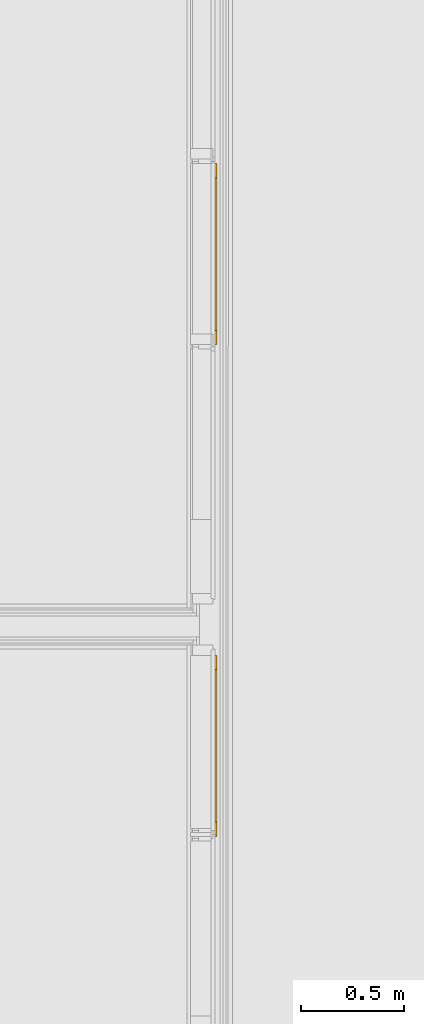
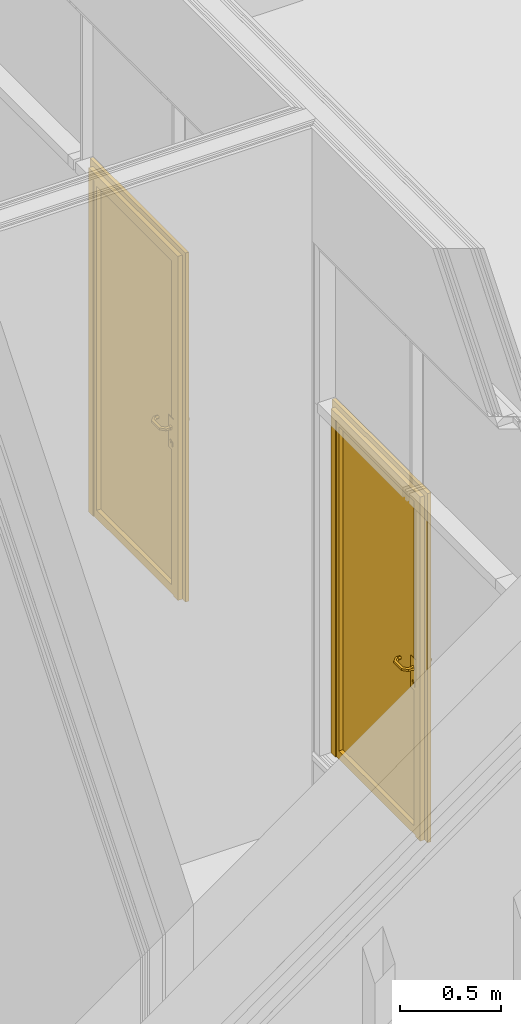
# One storey, part 242 of 260: 2 doors, 2 elements without a shape of their own.
"""IFC2X3 building model written with IfcOpenShell, lengths in millimetres."""

import ifcopenshell
import ifcopenshell.guid

model = None  # the IFC model being written
_history = None  # IfcOwnerHistory: only IFC2X3 demands one
_inside = {}  # id of a spatial element -> (the spatial element, [elements in it])
_under = {}  # id of a project, library or spatial element -> (it, [spatial elements below it])
_declared = {}  # id of a project -> (the project, [libraries it declares])
_typed = {}  # id of a type object -> (the type object, [elements of that type])
_made_of = {}  # id of a material, layer set ... -> (it, [elements and type objects made of it])


def new_model(schema):
    """Start an empty IFC model of exactly this schema.

    Asked for "IFC4X3", IfcOpenShell would pick the latest addendum, in which some entities
    have other attributes; the version numbers below select the first issue.
    IFC2X3 requires an IfcOwnerHistory on every rooted entity: one is made here for all.
    """
    global model, _history
    if schema == "IFC4X3":
        model = ifcopenshell.file(schema_version=(4, 3, 0, 0))
    else:
        model = ifcopenshell.file(schema=schema)
    _inside.clear()
    _under.clear()
    _declared.clear()
    _typed.clear()
    _made_of.clear()
    _history = None
    if model.schema == "IFC2X3":
        org = make("IfcOrganization", Name="unknown")
        user = make(
            "IfcPersonAndOrganization",
            ThePerson=make("IfcPerson", FamilyName="unknown"),
            TheOrganization=org,
        )
        app = make(
            "IfcApplication",
            ApplicationDeveloper=org,
            Version="unknown",
            ApplicationFullName="unknown",
            ApplicationIdentifier="unknown",
        )
        _history = make(
            "IfcOwnerHistory",
            OwningUser=user,
            OwningApplication=app,
            ChangeAction="ADDED",
            CreationDate=0,
        )
    return model


def make(cls, **values):
    """One entity of the class cls with the attributes given. An attribute that is None is left unset."""
    return model.create_entity(
        cls, **{name: value for name, value in values.items() if value is not None}
    )


def entity(cls, *values):
    """Any entity or typed value of the class cls, its attributes in the order of the schema. None: left unset."""
    e = model.create_entity(cls)
    for i, value in enumerate(values):
        if value is not None:
            e[i] = value
    return e


def rooted(cls, **values):
    """An entity with a GlobalId (a new one), such as an element, a storey or a relation."""
    return make(cls, GlobalId=ifcopenshell.guid.new(), OwnerHistory=_history, **values)


def si_unit(unit_type, name, prefix=None):
    """IfcSIUnit, for example si_unit("LENGTHUNIT", "METRE", prefix="MILLI")."""
    return make("IfcSIUnit", UnitType=unit_type, Prefix=prefix, Name=name)


def converted_unit(unit_type, name, factor, base, dimensions=None, offset=None):
    """IfcConversionBasedUnit, such as the inch: factor (a typed value) times the base unit."""
    return make(
        "IfcConversionBasedUnit"
        if offset is None
        else "IfcConversionBasedUnitWithOffset",
        ConversionOffset=offset,
        Dimensions=None
        if dimensions is None
        else entity("IfcDimensionalExponents", *dimensions),
        UnitType=unit_type,
        Name=name,
        ConversionFactor=make(
            "IfcMeasureWithUnit", ValueComponent=factor, UnitComponent=base
        ),
    )


def derived_unit(unit_type, elements):
    """IfcDerivedUnit: a product of units, each with its exponent."""
    return make(
        "IfcDerivedUnit",
        Elements=[
            make("IfcDerivedUnitElement", Unit=unit, Exponent=power)
            for unit, power in elements
        ],
        UnitType=unit_type,
    )


def money_unit(currency):
    """IfcMonetaryUnit."""
    return make("IfcMonetaryUnit", Currency=currency)


def assignment(units):
    """IfcUnitAssignment: the units of a project."""
    return None if units is None else make("IfcUnitAssignment", Units=units)


def point(xyz):
    """IfcCartesianPoint."""
    return None if xyz is None else make("IfcCartesianPoint", Coordinates=xyz)


def direction(xyz):
    """IfcDirection."""
    return None if xyz is None else make("IfcDirection", DirectionRatios=xyz)


def frame(location, z_axis=None, x_axis=None):
    """IfcAxis2Placement3D, a coordinate frame: its origin and axes. An axis left out is left unset."""
    return make(
        "IfcAxis2Placement3D",
        Location=point(location),
        Axis=direction(z_axis),
        RefDirection=direction(x_axis),
    )


def origin_with_axes():
    """The frame at (0, 0, 0) with the z axis (0, 0, 1) and the x axis (1, 0, 0) written out."""
    return frame((0.0, 0.0, 0.0), z_axis=(0.0, 0.0, 1.0), x_axis=(1.0, 0.0, 0.0))


def place(relative_to, where):
    """IfcLocalPlacement: puts the frame where relative to a parent placement (None: the world)."""
    return make(
        "IfcLocalPlacement", PlacementRelTo=relative_to, RelativePlacement=where
    )


def context(
    kind, dimensions, precision=None, world=None, true_north=None, identifier=None
):
    """IfcGeometricRepresentationContext, for example the 3D "Model" context."""
    return make(
        "IfcGeometricRepresentationContext",
        ContextIdentifier=identifier,
        ContextType=kind,
        CoordinateSpaceDimension=dimensions,
        Precision=precision,
        WorldCoordinateSystem=world,
        TrueNorth=true_north,
    )


def subcontext(parent, identifier, kind, view, scale=None):
    """IfcGeometricRepresentationSubContext, for example "Body" below "Model"."""
    return make(
        "IfcGeometricRepresentationSubContext",
        ContextIdentifier=identifier,
        ContextType=kind,
        ParentContext=parent,
        TargetScale=scale,
        TargetView=view,
    )


def project(units=None, contexts=None):
    """IfcProject with its units and contexts."""
    return rooted(
        "IfcProject",
        Name="project",
        RepresentationContexts=contexts,
        UnitsInContext=assignment(units),
    )


def spatial(cls, under=None, at=None, **own):
    """A site, building, storey or space (cls), placed at a placement, below another one or the project."""
    s = rooted(cls, ObjectPlacement=at, **own)
    if under is not None:
        _under.setdefault(under.id(), (under, []))[1].append(s)
    return s


def faces_of(points, faces, orient=None, outer=None):
    """IfcFace entities. A face is a list of loops; a loop is a list of indices into points, from 0.

    orient and outer hold one flag for each loop. By default every Orientation is true, the
    first loop of a face is its IfcFaceOuterBound and the others are IfcFaceBound.
    """
    made = []
    for i, loops in enumerate(faces):
        bounds = []
        for j, loop in enumerate(loops):
            is_outer = j == 0 if outer is None else outer[i][j]
            bounds.append(
                make(
                    "IfcFaceOuterBound" if is_outer else "IfcFaceBound",
                    Bound=make("IfcPolyLoop", Polygon=[points[k] for k in loop]),
                    Orientation=True if orient is None else orient[i][j],
                )
            )
        made.append(make("IfcFace", Bounds=bounds))
    return made


def open_shell(faces, orient=None, outer=None):
    """The faces of one IfcOpenShell. surface_model builds it on its shared points."""
    return ("IfcOpenShell", faces, orient, outer)


def faceted_brep(points, faces, orient=None, outer=None, voids=None):
    """IfcFacetedBrep: a solid bounded by flat faces; with voids (closed shells), ...WithVoids."""
    shared = [point(p) for p in points]
    hull = make("IfcClosedShell", CfsFaces=faces_of(shared, faces, orient, outer))
    if voids is None:
        return make("IfcFacetedBrep", Outer=hull)
    return make(
        "IfcFacetedBrepWithVoids",
        Outer=hull,
        Voids=[
            make(cls, CfsFaces=faces_of(shared, fs, o, b)) for cls, fs, o, b in voids
        ],
    )


def surface_model(cls, points, shells):
    """IfcFaceBasedSurfaceModel or IfcShellBasedSurfaceModel (cls): surfaces that need not close."""
    shared = [point(p) for p in points]
    made = [make(c, CfsFaces=faces_of(shared, fs, o, b)) for c, fs, o, b in shells]
    if cls == "IfcFaceBasedSurfaceModel":
        return make(cls, FbsmFaces=made)
    return make(cls, SbsmBoundary=made)


def shape(context_of_items, identifier, shape_type, items):
    """IfcShapeRepresentation: the items that make up one representation, for example the "Body"."""
    return make(
        "IfcShapeRepresentation",
        ContextOfItems=context_of_items,
        RepresentationIdentifier=identifier,
        RepresentationType=shape_type,
        Items=items,
    )


def material(Name=None, Category=None):
    """IfcMaterial."""
    return make("IfcMaterial", Name=Name, Category=Category)


def material_list(materials):
    """IfcMaterialList."""
    return make("IfcMaterialList", Materials=materials)


def made_of(thing, what):
    """Note that an element or type object is made of a material, layer set ...; save() writes the relation."""
    if what is not None:
        _made_of.setdefault(what.id(), (what, []))[1].append(thing)
    return thing


def type_object(cls, material=None, **own):
    """A type object (cls), such as IfcWallType, which elements share."""
    return made_of(rooted(cls, **own), material)


def element(
    cls,
    number,
    at=None,
    inside=None,
    cuts=None,
    type_object=None,
    material=None,
    context=None,
    identifier="Body",
    shape_type=None,
    held_by="IfcProductDefinitionShape",
    body=None,
    shapes=None,
    **own,
):
    """One element of the class cls, such as IfcWall. Its Tag is "e" and its number.

    at: its placement. inside: the storey or other place that contains it. cuts: it is an
    opening in that element (IfcRelVoidsElement). A single representation is given by context,
    identifier, shape_type and body (its items); several are given by shapes. held_by: the class
    of the entity that holds the representations. save() writes the other relations.
    """
    e = rooted(cls, Tag="e%d" % number, ObjectPlacement=at, **own)
    if body is not None:
        shapes = [shape(context, identifier, shape_type, body)]
    if shapes is not None:
        e.Representation = make(held_by, Representations=shapes)
    if inside is not None:
        _inside.setdefault(inside.id(), (inside, []))[1].append(e)
    if cuts is not None:
        rooted(
            "IfcRelVoidsElement", RelatingBuildingElement=cuts, RelatedOpeningElement=e
        )
    if type_object is not None:
        _typed.setdefault(type_object.id(), (type_object, []))[1].append(e)
    return made_of(e, material)


def aggregate(whole, parts):
    """IfcRelAggregates: a whole, such as a stair, and the parts it consists of."""
    return rooted("IfcRelAggregates", RelatingObject=whole, RelatedObjects=parts)


def save(model, path):
    """Write the relations noted so far, then the file.

    IfcRelAggregates (storeys below a building ...), IfcRelContainedInSpatialStructure (elements
    in a storey), IfcRelDefinesByType, IfcRelAssociatesMaterial and IfcRelDeclares: one each for
    every whole, place, type object, material and project.
    """
    for whole, parts in _under.values():
        aggregate(whole, parts)
    for where, things in _inside.values():
        rooted(
            "IfcRelContainedInSpatialStructure",
            RelatedElements=things,
            RelatingStructure=where,
        )
    for kind, things in _typed.values():
        rooted("IfcRelDefinesByType", RelatedObjects=things, RelatingType=kind)
    for what, things in _made_of.values():
        rooted("IfcRelAssociatesMaterial", RelatedObjects=things, RelatingMaterial=what)
    for by, libraries in _declared.values():
        rooted("IfcRelDeclares", RelatingContext=by, RelatedDefinitions=libraries)
    model.write(path)


model = new_model("IFC2X3")

# Units and contexts
model_context = context("Model", 3, precision=0.01, world=origin_with_axes(), true_north=direction((0.0, 1.0)))
body_context = subcontext(model_context, "Body", "Model", "MODEL_VIEW")
ifc_project = project(units=[si_unit("LENGTHUNIT", "METRE", prefix="MILLI"), si_unit("AREAUNIT", "SQUARE_METRE"), si_unit("VOLUMEUNIT", "CUBIC_METRE"), converted_unit("PLANEANGLEUNIT", "DEGREE", entity("IfcPlaneAngleMeasure", 0.0174532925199), si_unit("PLANEANGLEUNIT", "RADIAN"), dimensions=[0, 0, 0, 0, 0, 0, 0]), money_unit("EUR"), converted_unit("TIMEUNIT", "Year", entity("IfcTimeMeasure", 31556926.0), si_unit("TIMEUNIT", "SECOND"), dimensions=[0, 0, 1, 0, 0, 0, 0]), si_unit("MASSUNIT", "GRAM", prefix="KILO"), si_unit("THERMODYNAMICTEMPERATUREUNIT", "DEGREE_CELSIUS"), si_unit("LUMINOUSINTENSITYUNIT", "LUMEN"), si_unit("ENERGYUNIT", "JOULE", prefix="MEGA"), derived_unit("THERMALCONDUCTANCEUNIT", [(si_unit("POWERUNIT", "WATT"), 1), (si_unit("LENGTHUNIT", "METRE"), -1), (si_unit("THERMODYNAMICTEMPERATUREUNIT", "KELVIN"), -1)]), derived_unit("SPECIFICHEATCAPACITYUNIT", [(si_unit("ENERGYUNIT", "JOULE"), 1), (si_unit("MASSUNIT", "GRAM", prefix="KILO"), -1), (si_unit("THERMODYNAMICTEMPERATUREUNIT", "KELVIN"), -1)]), derived_unit("MASSDENSITYUNIT", [(si_unit("MASSUNIT", "GRAM", prefix="KILO"), 1), (si_unit("VOLUMEUNIT", "CUBIC_METRE"), -1)])], contexts=[model_context])

# Site, building, storey
site_placement = place(None, origin_with_axes())
site = spatial("IfcSite", under=ifc_project, at=site_placement, Name="Kolde pst 67a", CompositionType="ELEMENT")
building_placement = place(site_placement, origin_with_axes())
building = spatial("IfcBuilding", under=site, at=building_placement, Name="Riigigümnaasium", CompositionType="ELEMENT")
storey_placement = place(building_placement, origin_with_axes())
storey = spatial("IfcBuildingStorey", under=building, at=storey_placement, Name="1. korrus", CompositionType="ELEMENT", Elevation=0.0)

# Curtain wall, door
curtain_wall_type = type_object("IfcCurtainWallType", Name="Curtain Wall Type", PredefinedType="NOTDEFINED")
curtain_wall_1_placement = place(storey_placement, frame((11015.3356079, 51182.3220161, 399.999976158), z_axis=(0.0, 0.0, 1.0), x_axis=(1.0, 0.0, 0.0)))
curtain_wall_1 = element("IfcCurtainWall", 1, at=curtain_wall_1_placement, inside=storey, type_object=curtain_wall_type, Name="KLAASSEIN")
ifc_material_1 = material(Name="_METALL - alumiinium")
ifc_material_2 = material(Name="_KLAAS - kirgas")
ifc_material_3 = material(Name="_METALL - roostevaba terasleht, harjatud, 1mm")
ifc_material_list = material_list([ifc_material_1, ifc_material_2, ifc_material_3])
door_style_1 = type_object("IfcDoorStyle", Name="20 x 5 x 20", ConstructionType="NOTDEFINED", OperationType="SINGLE_SWING_LEFT", ParameterTakesPrecedence=False, Sizeable=False)
door_1_placement = place(curtain_wall_1_placement, frame((0.0112890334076, 1015.67663003, 1050.00002776), z_axis=(0.0, 0.0, 1.0), x_axis=(-1.11147909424e-05, -0.999999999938, 0.0)))
door_1 = element("IfcDoor", 2, at=door_1_placement, type_object=door_style_1, material=ifc_material_list, Name="Siseuks", ObjectType="DOOR", OverallHeight=2070.0, OverallWidth=880.0, context=body_context, shape_type="SurfaceModel", body=[
    faceted_brep([(-569.010173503, -35.0, -1050.0000218), (-569.010173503, -35.0, 1020.00002565), (-569.010173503, -30.0, 1020.00002565), (-569.010173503, -30.0, -1050.0000218), (-524.010173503, -35.0, -1050.0000218), (-524.010173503, -35.0, 975.000025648), (-524.010173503, -30.0, 975.000025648), (-524.010173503, -30.0, -1050.0000218)], [[[0, 1, 2, 3]], [[0, 4, 5, 1]], [[1, 5, 6, 2]], [[3, 2, 6, 7]], [[4, 0, 3, 7]], [[5, 4, 7, 6]]]),
    faceted_brep([(310.989817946, -35.0, 1020.00002565), (265.989817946, -35.0, 975.000025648), (265.989817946, -30.0, 975.000025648), (310.989817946, -30.0, 1020.00002565), (-569.010173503, -35.0, 1020.00002565), (-524.010173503, -35.0, 975.000025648), (-524.010173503, -30.0, 975.000025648), (-569.010173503, -30.0, 1020.00002565)], [[[0, 1, 2, 3]], [[0, 4, 5, 1]], [[1, 5, 6, 2]], [[3, 2, 6, 7]], [[4, 0, 3, 7]], [[5, 4, 7, 6]]]),
    faceted_brep([(310.989817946, -35.0, -1050.0000218), (265.989817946, -35.0, -1050.0000218), (265.989817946, -30.0, -1050.0000218), (310.989817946, -30.0, -1050.0000218), (310.989817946, -35.0, 1020.00002565), (265.989817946, -35.0, 975.000025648), (265.989817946, -30.0, 975.000025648), (310.989817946, -30.0, 1020.00002565)], [[[0, 1, 2, 3]], [[0, 4, 5, 1]], [[1, 5, 6, 2]], [[3, 2, 6, 7]], [[4, 0, 3, 7]], [[5, 4, 7, 6]]]),
    faceted_brep([(-569.010173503, -30.0, -1050.0000218), (-569.010173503, -30.0, 1020.00002565), (-569.010173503, 20.0, 1020.00002565), (-569.010173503, 20.0, -1050.0000218), (-549.010173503, -30.0, -1050.0000218), (-549.010173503, -30.0, 1000.00002565), (-549.010173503, 20.0, 1000.00002565), (-549.010173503, 20.0, -1050.0000218)], [[[0, 1, 2, 3]], [[0, 4, 5, 1]], [[1, 5, 6, 2]], [[3, 2, 6, 7]], [[4, 0, 3, 7]], [[5, 4, 7, 6]]]),
    faceted_brep([(310.989817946, -30.0, 1020.00002565), (290.989817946, -30.0, 1000.00002565), (290.989817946, 20.0, 1000.00002565), (310.989817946, 20.0, 1020.00002565), (-569.010173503, -30.0, 1020.00002565), (-549.010173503, -30.0, 1000.00002565), (-549.010173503, 20.0, 1000.00002565), (-569.010173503, 20.0, 1020.00002565)], [[[0, 1, 2, 3]], [[0, 4, 5, 1]], [[1, 5, 6, 2]], [[3, 2, 6, 7]], [[4, 0, 3, 7]], [[5, 4, 7, 6]]]),
    faceted_brep([(310.989817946, -30.0, -1050.0000218), (290.989817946, -30.0, -1050.0000218), (290.989817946, 20.0, -1050.0000218), (310.989817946, 20.0, -1050.0000218), (310.989817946, -30.0, 1020.00002565), (290.989817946, -30.0, 1000.00002565), (290.989817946, 20.0, 1000.00002565), (310.989817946, 20.0, 1020.00002565)], [[[0, 1, 2, 3]], [[0, 4, 5, 1]], [[1, 5, 6, 2]], [[3, 2, 6, 7]], [[4, 0, 3, 7]], [[5, 4, 7, 6]]]),
    faceted_brep([(-599.010156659, -10.0, -1050.0000218), (-599.010156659, -10.0, 1050.0000218), (-599.010156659, 10.0, 1050.0000218), (-599.010156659, 10.0, -1050.0000218), (-569.010173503, -10.0, -1050.0000218), (-569.010173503, -10.0, 1020.00002565), (-569.010173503, 10.0, 1020.00002565), (-569.010173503, 10.0, -1050.0000218)], [[[0, 1, 2, 3]], [[0, 4, 5, 1]], [[1, 5, 6, 2]], [[3, 2, 6, 7]], [[4, 0, 3, 7]], [[5, 4, 7, 6]]]),
    faceted_brep([(-599.010156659, -10.0, 1050.0000218), (340.989827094, -10.0, 1050.0000218), (340.989827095, 10.0, 1050.0000218), (-599.010156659, 10.0, 1050.0000218), (-569.010173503, -10.0, 1020.00002565), (310.989817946, -10.0, 1020.00002565), (310.989817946, 10.0, 1020.00002565), (-569.010173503, 10.0, 1020.00002565)], [[[0, 1, 2, 3]], [[0, 4, 5, 1]], [[1, 5, 6, 2]], [[3, 2, 6, 7]], [[4, 0, 3, 7]], [[5, 4, 7, 6]]]),
    faceted_brep([(340.989827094, -10.0, 1050.0000218), (340.989827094, -10.0, -1050.0000218), (340.989827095, 10.0, -1050.0000218), (340.989827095, 10.0, 1050.0000218), (310.989817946, -10.0, 1020.00002565), (310.989817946, -10.0, -1050.0000218), (310.989817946, 10.0, -1050.0000218), (310.989817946, 10.0, 1020.00002565)], [[[0, 1, 2, 3]], [[0, 4, 5, 1]], [[1, 5, 6, 2]], [[3, 2, 6, 7]], [[4, 0, 3, 7]], [[5, 4, 7, 6]]]),
    faceted_brep([(240.989817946, -30.0, -1000.0000218), (240.989817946, -30.0, 950.000025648), (240.989817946, 20.0, 950.000025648), (240.989817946, 20.0, -1000.0000218), (290.989817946, -30.0, -1050.0000218), (290.989817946, -30.0, 1000.00002565), (290.989817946, 20.0, 1000.00002565), (290.989817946, 20.0, -1050.0000218)], [[[0, 1, 2, 3]], [[0, 4, 5, 1]], [[1, 5, 6, 2]], [[3, 2, 6, 7]], [[4, 0, 3, 7]], [[5, 4, 7, 6]]]),
    faceted_brep([(-549.010173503, -30.0, -1050.0000218), (-549.010173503, -30.0, 1000.00002565), (-549.010173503, 20.0, 1000.00002565), (-549.010173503, 20.0, -1050.0000218), (-499.010173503, -30.0, -1000.0000218), (-499.010173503, -30.0, 950.000025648), (-499.010173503, 20.0, 950.000025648), (-499.010173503, 20.0, -1000.0000218)], [[[0, 1, 2, 3]], [[0, 4, 5, 1]], [[1, 5, 6, 2]], [[3, 2, 6, 7]], [[4, 0, 3, 7]], [[5, 4, 7, 6]]]),
    faceted_brep([(-549.010173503, -30.0, -1050.0000218), (-499.010173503, -30.0, -1000.0000218), (-499.010173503, 20.0, -1000.0000218), (-549.010173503, 20.0, -1050.0000218), (290.989817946, -30.0, -1050.0000218), (240.989817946, -30.0, -1000.0000218), (240.989817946, 20.0, -1000.0000218), (290.989817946, 20.0, -1050.0000218)], [[[0, 1, 2, 3]], [[0, 4, 5, 1]], [[1, 5, 6, 2]], [[3, 2, 6, 7]], [[4, 0, 3, 7]], [[5, 4, 7, 6]]]),
    faceted_brep([(290.989817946, -30.0, 1000.00002565), (240.989817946, -30.0, 950.000025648), (240.989817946, 20.0, 950.000025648), (290.989817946, 20.0, 1000.00002565), (-549.010173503, -30.0, 1000.00002565), (-499.010173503, -30.0, 950.000025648), (-499.010173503, 20.0, 950.000025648), (-549.010173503, 20.0, 1000.00002565)], [[[0, 1, 2, 3]], [[0, 4, 5, 1]], [[1, 5, 6, 2]], [[3, 2, 6, 7]], [[4, 0, 3, 7]], [[5, 4, 7, 6]]]),
    faceted_brep([(240.989817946, -6.0, -1000.0000218), (-499.010173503, -6.0, -1000.0000218), (-499.010173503, 10.0, -1000.0000218), (240.989817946, 10.0, -1000.0000218), (240.989817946, -6.0, 950.000025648), (-499.010173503, -6.0, 950.000025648), (-499.010173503, 10.0, 950.000025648), (240.989817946, 10.0, 950.000025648)], [[[0, 1, 2, 3]], [[0, 4, 5, 1]], [[1, 5, 6, 2]], [[3, 2, 6, 7]], [[4, 0, 3, 7]], [[5, 4, 7, 6]]]),
    faceted_brep([(269.489817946, 20.0, 9.99997819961), (269.489817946, 23.0, 9.99997819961), (212.489817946, 23.0, 9.99997819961), (212.489817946, 20.0, 9.99997819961), (269.489817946, 20.0, -180.0000218), (269.489817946, 23.0, -180.0000218), (212.489817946, 23.0, -180.0000218), (212.489817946, 20.0, -180.0000218)], [[[0, 1, 2, 3]], [[4, 5, 1, 0]], [[1, 5, 6, 2]], [[3, 2, 6, 7]], [[0, 3, 7, 4]], [[7, 6, 5, 4]]]),
    faceted_brep([(237.281614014, 33.0, -61.4126999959), (236.972597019, 23.0, -62.3637565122), (227.989817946, 23.0, -50.0000218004), (228.989817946, 33.0, -50.0000218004), (250.698021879, 33.0, -57.0534448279), (251.507038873, 23.0, -57.6412300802), (251.507038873, 23.0, -42.3588135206), (236.972597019, 23.0, -37.6362870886), (237.281614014, 33.0, -38.5873436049), (250.698021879, 33.0, -42.9465987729)], [[[0, 1, 2, 3]], [[4, 5, 1, 0]], [[2, 1, 5, 6, 7]], [[3, 2, 7, 8]], [[3, 8, 9, 4, 0]], [[9, 6, 5, 4]], [[8, 7, 6, 9]]]),
    faceted_brep([(234.809478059, 27.0, -164.021152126), (234.19144407, 23.0, -165.923265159), (218.989817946, 23.0, -145.0000218), (220.989817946, 27.0, -145.0000218), (257.170157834, 27.0, -156.755726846), (258.788191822, 23.0, -157.931297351), (258.788191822, 23.0, -132.06874625), (234.19144407, 23.0, -124.076778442), (234.809478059, 27.0, -125.978891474), (257.170157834, 27.0, -133.244316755)], [[[0, 1, 2, 3]], [[4, 5, 1, 0]], [[2, 1, 5, 6, 7]], [[3, 2, 7, 8]], [[3, 8, 9, 4, 0]], [[9, 6, 5, 4]], [[8, 7, 6, 9]]]),
    faceted_brep([(238.826698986, 29.0, -142.657417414), (238.517681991, 27.0, -143.608473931), (232.989817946, 27.0, -136.0000218), (233.989817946, 29.0, -136.0000218), (246.652936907, 29.0, -140.114518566), (247.461953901, 27.0, -140.702303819), (247.461953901, 27.0, -131.297739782), (238.517681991, 27.0, -128.39156967), (238.826698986, 29.0, -129.342626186), (246.652936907, 29.0, -131.885525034)], [[[0, 1, 2, 3]], [[4, 5, 1, 0]], [[2, 1, 5, 6, 7]], [[3, 2, 7, 8]], [[3, 8, 9, 4, 0]], [[9, 6, 5, 4]], [[8, 7, 6, 9]]]),
    surface_model("IfcShellBasedSurfaceModel", [(230.989817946, 33.0, -50.0000218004), (230.989817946, 48.8578643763, -50.0000218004), (237.899648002, 51.7200096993, -59.5105869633), (237.899648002, 33.0, -59.5105869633), (237.899648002, 33.0, -40.4894566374), (237.899648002, 51.7200096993, -40.4894566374), (216.847682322, 63.0, -50.0000218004), (219.709827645, 69.9098300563, -59.5105869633), (249.07998789, 56.3510581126, -55.8778743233), (249.07998789, 33.0, -55.8778743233), (249.07998789, 33.0, -44.1221692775), (249.07998789, 56.3510581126, -44.1221692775), (219.709827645, 69.9098300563, -40.4894566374), (155.13195357, 63.0, -50.0000218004), (152.269808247, 69.9098300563, -59.5105869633), (224.340876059, 81.0901699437, -55.8778743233), (224.340876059, 81.0901699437, -44.1221692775), (152.269808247, 69.9098300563, -40.4894566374), (140.989817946, 48.8578643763, -50.0000218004), (134.07998789, 51.7200096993, -59.5105869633), (147.638759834, 81.0901699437, -55.8778743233), (147.638759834, 81.0901699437, -44.1221692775), (134.07998789, 51.7200096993, -40.4894566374), (140.989817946, 33.0, -50.0000218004), (134.07998789, 33.0, -59.5105869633), (122.899648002, 56.3510581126, -55.8778743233), (122.899648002, 56.3510581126, -44.1221692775), (134.07998789, 33.0, -40.4894566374), (122.899648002, 33.0, -44.1221692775), (122.899648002, 33.0, -55.8778743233)], [open_shell([[[0, 1, 2, 3]], [[4, 5, 1, 0]], [[1, 6, 7, 2]], [[3, 2, 8, 9]], [[10, 11, 5, 4]], [[5, 12, 6, 1]], [[6, 13, 14, 7]], [[2, 7, 15, 8]], [[9, 8, 11, 10]], [[11, 16, 12, 5]], [[12, 17, 13, 6]], [[13, 18, 19, 14]], [[7, 14, 20, 15]], [[8, 15, 16, 11]], [[16, 21, 17, 12]], [[17, 22, 18, 13]], [[18, 23, 24, 19]], [[14, 19, 25, 20]], [[15, 20, 21, 16]], [[21, 26, 22, 17]], [[22, 27, 23, 18]], [[23, 27, 28, 29, 24]], [[19, 24, 29, 25]], [[20, 25, 26, 21]], [[26, 28, 27, 22]], [[25, 29, 28, 26]]])]),
    faceted_brep([(269.489817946, -30.0, 9.99997819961), (212.489817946, -30.0, 9.99997819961), (212.489817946, -33.0, 9.99997819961), (269.489817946, -33.0, 9.99997819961), (269.489817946, -30.0, -180.0000218), (212.489817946, -30.0, -180.0000218), (212.489817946, -33.0, -180.0000218), (269.489817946, -33.0, -180.0000218)], [[[0, 1, 2, 3]], [[0, 4, 5, 1]], [[1, 5, 6, 2]], [[3, 2, 6, 7]], [[4, 0, 3, 7]], [[5, 4, 7, 6]]]),
    faceted_brep([(237.281614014, -43.0, -61.4126999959), (228.989817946, -43.0, -50.0000218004), (227.989817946, -33.0, -50.0000218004), (236.972597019, -33.0, -62.3637565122), (250.698021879, -43.0, -57.0534448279), (250.698021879, -43.0, -42.9465987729), (237.281614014, -43.0, -38.5873436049), (236.972597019, -33.0, -37.6362870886), (251.507038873, -33.0, -42.3588135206), (251.507038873, -33.0, -57.6412300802)], [[[0, 1, 2, 3]], [[1, 0, 4, 5, 6]], [[1, 6, 7, 2]], [[2, 7, 8, 9, 3]], [[4, 0, 3, 9]], [[5, 4, 9, 8]], [[6, 5, 8, 7]]]),
    faceted_brep([(234.809478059, -37.0, -164.021152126), (220.989817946, -37.0, -145.0000218), (218.989817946, -33.0, -145.0000218), (234.19144407, -33.0, -165.923265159), (257.170157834, -37.0, -156.755726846), (257.170157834, -37.0, -133.244316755), (234.809478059, -37.0, -125.978891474), (234.19144407, -33.0, -124.076778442), (258.788191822, -33.0, -132.06874625), (258.788191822, -33.0, -157.931297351)], [[[0, 1, 2, 3]], [[1, 0, 4, 5, 6]], [[1, 6, 7, 2]], [[2, 7, 8, 9, 3]], [[4, 0, 3, 9]], [[5, 4, 9, 8]], [[6, 5, 8, 7]]]),
    faceted_brep([(238.826698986, -39.0, -142.657417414), (233.989817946, -39.0, -136.0000218), (232.989817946, -37.0, -136.0000218), (238.517681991, -37.0, -143.608473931), (246.652936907, -39.0, -140.114518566), (246.652936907, -39.0, -131.885525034), (238.826698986, -39.0, -129.342626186), (238.517681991, -37.0, -128.39156967), (247.461953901, -37.0, -131.297739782), (247.461953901, -37.0, -140.702303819)], [[[0, 1, 2, 3]], [[1, 0, 4, 5, 6]], [[1, 6, 7, 2]], [[2, 7, 8, 9, 3]], [[4, 0, 3, 9]], [[5, 4, 9, 8]], [[6, 5, 8, 7]]]),
    surface_model("IfcShellBasedSurfaceModel", [(230.989817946, -43.0, -50.0000218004), (237.899648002, -43.0, -59.5105869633), (237.899648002, -61.7200096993, -59.5105869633), (230.989817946, -58.8578643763, -50.0000218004), (249.07998789, -43.0, -55.8778743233), (249.07998789, -66.3510581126, -55.8778743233), (219.709827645, -79.9098300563, -59.5105869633), (216.847682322, -73.0, -50.0000218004), (237.899648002, -43.0, -40.4894566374), (237.899648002, -61.7200096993, -40.4894566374), (249.07998789, -43.0, -44.1221692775), (249.07998789, -66.3510581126, -44.1221692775), (224.340876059, -91.0901699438, -55.8778743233), (152.269808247, -79.9098300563, -59.5105869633), (155.13195357, -73.0, -50.0000218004), (219.709827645, -79.9098300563, -40.4894566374), (224.340876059, -91.0901699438, -44.1221692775), (147.638759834, -91.0901699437, -55.8778743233), (134.07998789, -61.7200096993, -59.5105869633), (140.989817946, -58.8578643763, -50.0000218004), (152.269808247, -79.9098300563, -40.4894566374), (147.638759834, -91.0901699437, -44.1221692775), (122.899648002, -66.3510581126, -55.8778743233), (134.07998789, -43.0, -59.5105869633), (140.989817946, -43.0, -50.0000218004), (134.07998789, -61.7200096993, -40.4894566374), (122.899648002, -66.3510581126, -44.1221692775), (122.899648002, -43.0, -55.8778743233), (122.899648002, -43.0, -44.1221692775), (134.07998789, -43.0, -40.4894566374)], [open_shell([[[0, 1, 2, 3]], [[1, 4, 5, 2]], [[3, 2, 6, 7]], [[8, 0, 3, 9]], [[4, 10, 11, 5]], [[2, 5, 12, 6]], [[7, 6, 13, 14]], [[9, 3, 7, 15]], [[10, 8, 9, 11]], [[5, 11, 16, 12]], [[6, 12, 17, 13]], [[14, 13, 18, 19]], [[15, 7, 14, 20]], [[11, 9, 15, 16]], [[12, 16, 21, 17]], [[13, 17, 22, 18]], [[19, 18, 23, 24]], [[20, 14, 19, 25]], [[16, 15, 20, 21]], [[17, 21, 26, 22]], [[18, 22, 27, 23]], [[24, 23, 27, 28, 29]], [[25, 19, 24, 29]], [[21, 20, 25, 26]], [[22, 26, 28, 27]], [[26, 25, 29, 28]]])]),
])
aggregate(curtain_wall_1, [door_1])

curtain_wall_2_placement = place(storey_placement, frame((11015.4348778, 48773.3132292, 399.999999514), z_axis=(0.0, 0.0, 1.0), x_axis=(1.0, 0.0, 0.0)))
curtain_wall_2 = element("IfcCurtainWall", 3, at=curtain_wall_2_placement, inside=storey, type_object=curtain_wall_type, Name="KLAASSEIN")
door_style_2 = type_object("IfcDoorStyle", Name="20 x 2100 x 20", ConstructionType="NOTDEFINED", OperationType="SINGLE_SWING_LEFT", ParameterTakesPrecedence=False, Sizeable=False)
door_2_placement = place(curtain_wall_2_placement, frame((-0.0113884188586, 1043.33286186, 1050.0000131), z_axis=(0.0, 0.0, 1.0), x_axis=(1.09154223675e-05, -0.99999999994, 0.0)))
door_2 = element("IfcDoor", 4, at=door_2_placement, type_object=door_style_2, material=ifc_material_list, Name="Siseuks", ObjectType="DOOR", OverallHeight=2070.0, OverallWidth=880.0, context=body_context, shape_type="SurfaceModel", body=[
    faceted_brep([(-563.333323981, -35.0, -1050.0000131), (-563.333323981, -35.0, 1020.0000172), (-563.333323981, -30.0, 1020.0000172), (-563.333323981, -30.0, -1050.0000131), (-518.333323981, -35.0, -1050.0000131), (-518.333323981, -35.0, 975.000017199), (-518.333323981, -30.0, 975.000017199), (-518.333323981, -30.0, -1050.0000131)], [[[0, 1, 2, 3]], [[0, 4, 5, 1]], [[1, 5, 6, 2]], [[3, 2, 6, 7]], [[4, 0, 3, 7]], [[5, 4, 7, 6]]]),
    faceted_brep([(316.666660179, -35.0, 1020.0000172), (271.666660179, -35.0, 975.000017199), (271.666660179, -30.0, 975.000017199), (316.666660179, -30.0, 1020.0000172), (-563.333323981, -35.0, 1020.0000172), (-518.333323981, -35.0, 975.000017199), (-518.333323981, -30.0, 975.000017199), (-563.333323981, -30.0, 1020.0000172)], [[[0, 1, 2, 3]], [[0, 4, 5, 1]], [[1, 5, 6, 2]], [[3, 2, 6, 7]], [[4, 0, 3, 7]], [[5, 4, 7, 6]]]),
    faceted_brep([(316.666660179, -35.0, -1050.0000131), (271.666660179, -35.0, -1050.0000131), (271.666660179, -30.0, -1050.0000131), (316.666660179, -30.0, -1050.0000131), (316.666660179, -35.0, 1020.0000172), (271.666660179, -35.0, 975.000017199), (271.666660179, -30.0, 975.000017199), (316.666660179, -30.0, 1020.0000172)], [[[0, 1, 2, 3]], [[0, 4, 5, 1]], [[1, 5, 6, 2]], [[3, 2, 6, 7]], [[4, 0, 3, 7]], [[5, 4, 7, 6]]]),
    faceted_brep([(-563.333323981, -30.0, -1050.0000131), (-563.333323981, -30.0, 1020.0000172), (-563.333323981, 20.0, 1020.0000172), (-563.333323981, 20.0, -1050.0000131), (-543.333323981, -30.0, -1050.0000131), (-543.333323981, -30.0, 1000.0000172), (-543.333323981, 20.0, 1000.0000172), (-543.333323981, 20.0, -1050.0000131)], [[[0, 1, 2, 3]], [[0, 4, 5, 1]], [[1, 5, 6, 2]], [[3, 2, 6, 7]], [[4, 0, 3, 7]], [[5, 4, 7, 6]]]),
    faceted_brep([(316.666660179, -30.0, 1020.0000172), (296.666660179, -30.0, 1000.0000172), (296.666660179, 20.0, 1000.0000172), (316.666660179, 20.0, 1020.0000172), (-563.333323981, -30.0, 1020.0000172), (-543.333323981, -30.0, 1000.0000172), (-543.333323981, 20.0, 1000.0000172), (-563.333323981, 20.0, 1020.0000172)], [[[0, 1, 2, 3]], [[0, 4, 5, 1]], [[1, 5, 6, 2]], [[3, 2, 6, 7]], [[4, 0, 3, 7]], [[5, 4, 7, 6]]]),
    faceted_brep([(316.666660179, -30.0, -1050.0000131), (296.666660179, -30.0, -1050.0000131), (296.666660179, 20.0, -1050.0000131), (316.666660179, 20.0, -1050.0000131), (316.666660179, -30.0, 1020.0000172), (296.666660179, -30.0, 1000.0000172), (296.666660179, 20.0, 1000.0000172), (316.666660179, 20.0, 1020.0000172)], [[[0, 1, 2, 3]], [[0, 4, 5, 1]], [[1, 5, 6, 2]], [[3, 2, 6, 7]], [[4, 0, 3, 7]], [[5, 4, 7, 6]]]),
    faceted_brep([(-593.333306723, -10.0, -1050.0000131), (-593.333306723, -10.0, 1050.0000131), (-593.333306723, 10.0, 1050.0000131), (-593.333306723, 10.0, -1050.0000131), (-563.333323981, -10.0, -1050.0000131), (-563.333323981, -10.0, 1020.0000172), (-563.333323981, 10.0, 1020.0000172), (-563.333323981, 10.0, -1050.0000131)], [[[0, 1, 2, 3]], [[0, 4, 5, 1]], [[1, 5, 6, 2]], [[3, 2, 6, 7]], [[4, 0, 3, 7]], [[5, 4, 7, 6]]]),
    faceted_brep([(-593.333306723, -10.0, 1050.0000131), (346.666669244, -10.0, 1050.0000131), (346.666669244, 10.0, 1050.0000131), (-593.333306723, 10.0, 1050.0000131), (-563.333323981, -10.0, 1020.0000172), (316.666660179, -10.0, 1020.0000172), (316.666660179, 10.0, 1020.0000172), (-563.333323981, 10.0, 1020.0000172)], [[[0, 1, 2, 3]], [[0, 4, 5, 1]], [[1, 5, 6, 2]], [[3, 2, 6, 7]], [[4, 0, 3, 7]], [[5, 4, 7, 6]]]),
    faceted_brep([(346.666669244, -10.0, 1050.0000131), (346.666669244, -10.0, -1050.0000131), (346.666669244, 10.0, -1050.0000131), (346.666669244, 10.0, 1050.0000131), (316.666660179, -10.0, 1020.0000172), (316.666660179, -10.0, -1050.0000131), (316.666660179, 10.0, -1050.0000131), (316.666660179, 10.0, 1020.0000172)], [[[0, 1, 2, 3]], [[0, 4, 5, 1]], [[1, 5, 6, 2]], [[3, 2, 6, 7]], [[4, 0, 3, 7]], [[5, 4, 7, 6]]]),
    faceted_brep([(246.666660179, -30.0, -1000.0000131), (246.666660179, -30.0, 950.000017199), (246.666660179, 20.0, 950.000017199), (246.666660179, 20.0, -1000.0000131), (296.666660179, -30.0, -1050.0000131), (296.666660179, -30.0, 1000.0000172), (296.666660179, 20.0, 1000.0000172), (296.666660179, 20.0, -1050.0000131)], [[[0, 1, 2, 3]], [[0, 4, 5, 1]], [[1, 5, 6, 2]], [[3, 2, 6, 7]], [[4, 0, 3, 7]], [[5, 4, 7, 6]]]),
    faceted_brep([(-543.333323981, -30.0, -1050.0000131), (-543.333323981, -30.0, 1000.0000172), (-543.333323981, 20.0, 1000.0000172), (-543.333323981, 20.0, -1050.0000131), (-493.333323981, -30.0, -1000.0000131), (-493.333323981, -30.0, 950.000017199), (-493.333323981, 20.0, 950.000017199), (-493.333323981, 20.0, -1000.0000131)], [[[0, 1, 2, 3]], [[0, 4, 5, 1]], [[1, 5, 6, 2]], [[3, 2, 6, 7]], [[4, 0, 3, 7]], [[5, 4, 7, 6]]]),
    faceted_brep([(-543.333323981, -30.0, -1050.0000131), (-493.333323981, -30.0, -1000.0000131), (-493.333323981, 20.0, -1000.0000131), (-543.333323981, 20.0, -1050.0000131), (296.666660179, -30.0, -1050.0000131), (246.666660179, -30.0, -1000.0000131), (246.666660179, 20.0, -1000.0000131), (296.666660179, 20.0, -1050.0000131)], [[[0, 1, 2, 3]], [[0, 4, 5, 1]], [[1, 5, 6, 2]], [[3, 2, 6, 7]], [[4, 0, 3, 7]], [[5, 4, 7, 6]]]),
    faceted_brep([(296.666660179, -30.0, 1000.0000172), (246.666660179, -30.0, 950.000017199), (246.666660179, 20.0, 950.000017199), (296.666660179, 20.0, 1000.0000172), (-543.333323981, -30.0, 1000.0000172), (-493.333323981, -30.0, 950.000017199), (-493.333323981, 20.0, 950.000017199), (-543.333323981, 20.0, 1000.0000172)], [[[0, 1, 2, 3]], [[0, 4, 5, 1]], [[1, 5, 6, 2]], [[3, 2, 6, 7]], [[4, 0, 3, 7]], [[5, 4, 7, 6]]]),
    faceted_brep([(246.666660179, -6.0, -1000.0000131), (-493.333323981, -6.0, -1000.0000131), (-493.333323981, 10.0, -1000.0000131), (246.666660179, 10.0, -1000.0000131), (246.666660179, -6.0, 950.000017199), (-493.333323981, -6.0, 950.000017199), (-493.333323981, 10.0, 950.000017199), (246.666660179, 10.0, 950.000017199)], [[[0, 1, 2, 3]], [[0, 4, 5, 1]], [[1, 5, 6, 2]], [[3, 2, 6, 7]], [[4, 0, 3, 7]], [[5, 4, 7, 6]]]),
    faceted_brep([(275.166660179, 20.0, 9.99998689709), (275.166660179, 23.0, 9.99998689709), (218.166660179, 23.0, 9.99998689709), (218.166660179, 20.0, 9.99998689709), (275.166660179, 20.0, -180.000013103), (275.166660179, 23.0, -180.000013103), (218.166660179, 23.0, -180.000013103), (218.166660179, 20.0, -180.000013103)], [[[0, 1, 2, 3]], [[4, 5, 1, 0]], [[1, 5, 6, 2]], [[3, 2, 6, 7]], [[0, 3, 7, 4]], [[7, 6, 5, 4]]]),
    faceted_brep([(242.958456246, 33.0, -61.4126912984), (242.649439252, 23.0, -62.3637478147), (233.666660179, 23.0, -50.0000131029), (234.666660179, 33.0, -50.0000131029), (256.374864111, 33.0, -57.0534361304), (257.183881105, 23.0, -57.6412213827), (257.183881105, 23.0, -42.3588048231), (242.649439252, 23.0, -37.6362783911), (242.958456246, 33.0, -38.5873349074), (256.374864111, 33.0, -42.9465900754)], [[[0, 1, 2, 3]], [[4, 5, 1, 0]], [[2, 1, 5, 6, 7]], [[3, 2, 7, 8]], [[3, 8, 9, 4, 0]], [[9, 6, 5, 4]], [[8, 7, 6, 9]]]),
    faceted_brep([(240.486320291, 27.0, -164.021143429), (239.868286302, 23.0, -165.923256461), (224.666660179, 23.0, -145.000013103), (226.666660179, 27.0, -145.000013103), (262.847000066, 27.0, -156.755718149), (264.465034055, 23.0, -157.931288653), (264.465034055, 23.0, -132.068737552), (239.868286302, 23.0, -124.076769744), (240.486320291, 27.0, -125.978882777), (262.847000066, 27.0, -133.244308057)], [[[0, 1, 2, 3]], [[4, 5, 1, 0]], [[2, 1, 5, 6, 7]], [[3, 2, 7, 8]], [[3, 8, 9, 4, 0]], [[9, 6, 5, 4]], [[8, 7, 6, 9]]]),
    faceted_brep([(244.503541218, 29.0, -142.657408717), (244.194524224, 27.0, -143.608465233), (238.666660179, 27.0, -136.000013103), (239.666660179, 29.0, -136.000013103), (252.329779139, 29.0, -140.114509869), (253.138796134, 27.0, -140.702295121), (253.138796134, 27.0, -131.297731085), (244.194524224, 27.0, -128.391560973), (244.503541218, 29.0, -129.342617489), (252.329779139, 29.0, -131.885516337)], [[[0, 1, 2, 3]], [[4, 5, 1, 0]], [[2, 1, 5, 6, 7]], [[3, 2, 7, 8]], [[3, 8, 9, 4, 0]], [[9, 6, 5, 4]], [[8, 7, 6, 9]]]),
    surface_model("IfcShellBasedSurfaceModel", [(236.666660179, 33.0, -50.0000131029), (236.666660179, 48.8578643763, -50.0000131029), (243.576490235, 51.7200096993, -59.5105782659), (243.576490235, 33.0, -59.5105782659), (243.576490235, 33.0, -40.48944794), (243.576490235, 51.7200096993, -40.48944794), (222.524524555, 63.0, -50.0000131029), (225.386669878, 69.9098300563, -59.5105782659), (254.756830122, 56.3510581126, -55.8778656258), (254.756830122, 33.0, -55.8778656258), (254.756830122, 33.0, -44.12216058), (254.756830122, 56.3510581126, -44.12216058), (225.386669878, 69.9098300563, -40.48944794), (160.808795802, 63.0, -50.0000131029), (157.946650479, 69.9098300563, -59.5105782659), (230.017718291, 81.0901699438, -55.8778656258), (230.017718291, 81.0901699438, -44.12216058), (157.946650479, 69.9098300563, -40.48944794), (146.666660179, 48.8578643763, -50.0000131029), (139.756830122, 51.7200096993, -59.5105782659), (153.315602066, 81.0901699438, -55.8778656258), (153.315602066, 81.0901699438, -44.12216058), (139.756830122, 51.7200096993, -40.48944794), (146.666660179, 33.0, -50.0000131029), (139.756830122, 33.0, -59.5105782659), (128.576490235, 56.3510581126, -55.8778656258), (128.576490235, 56.3510581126, -44.12216058), (139.756830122, 33.0, -40.48944794), (128.576490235, 33.0, -44.12216058), (128.576490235, 33.0, -55.8778656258)], [open_shell([[[0, 1, 2, 3]], [[4, 5, 1, 0]], [[1, 6, 7, 2]], [[3, 2, 8, 9]], [[10, 11, 5, 4]], [[5, 12, 6, 1]], [[6, 13, 14, 7]], [[2, 7, 15, 8]], [[9, 8, 11, 10]], [[11, 16, 12, 5]], [[12, 17, 13, 6]], [[13, 18, 19, 14]], [[7, 14, 20, 15]], [[8, 15, 16, 11]], [[16, 21, 17, 12]], [[17, 22, 18, 13]], [[18, 23, 24, 19]], [[14, 19, 25, 20]], [[15, 20, 21, 16]], [[21, 26, 22, 17]], [[22, 27, 23, 18]], [[23, 27, 28, 29, 24]], [[19, 24, 29, 25]], [[20, 25, 26, 21]], [[26, 28, 27, 22]], [[25, 29, 28, 26]]])]),
    faceted_brep([(275.166660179, -30.0, 9.99998689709), (218.166660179, -30.0, 9.99998689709), (218.166660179, -33.0, 9.99998689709), (275.166660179, -33.0, 9.99998689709), (275.166660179, -30.0, -180.000013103), (218.166660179, -30.0, -180.000013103), (218.166660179, -33.0, -180.000013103), (275.166660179, -33.0, -180.000013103)], [[[0, 1, 2, 3]], [[0, 4, 5, 1]], [[1, 5, 6, 2]], [[3, 2, 6, 7]], [[4, 0, 3, 7]], [[5, 4, 7, 6]]]),
    faceted_brep([(242.958456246, -43.0, -61.4126912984), (234.666660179, -43.0, -50.0000131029), (233.666660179, -33.0, -50.0000131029), (242.649439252, -33.0, -62.3637478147), (256.374864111, -43.0, -57.0534361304), (256.374864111, -43.0, -42.9465900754), (242.958456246, -43.0, -38.5873349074), (242.649439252, -33.0, -37.6362783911), (257.183881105, -33.0, -42.3588048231), (257.183881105, -33.0, -57.6412213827)], [[[0, 1, 2, 3]], [[1, 0, 4, 5, 6]], [[1, 6, 7, 2]], [[2, 7, 8, 9, 3]], [[4, 0, 3, 9]], [[5, 4, 9, 8]], [[6, 5, 8, 7]]]),
    faceted_brep([(240.486320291, -37.0, -164.021143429), (226.666660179, -37.0, -145.000013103), (224.666660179, -33.0, -145.000013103), (239.868286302, -33.0, -165.923256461), (262.847000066, -37.0, -156.755718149), (262.847000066, -37.0, -133.244308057), (240.486320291, -37.0, -125.978882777), (239.868286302, -33.0, -124.076769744), (264.465034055, -33.0, -132.068737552), (264.465034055, -33.0, -157.931288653)], [[[0, 1, 2, 3]], [[1, 0, 4, 5, 6]], [[1, 6, 7, 2]], [[2, 7, 8, 9, 3]], [[4, 0, 3, 9]], [[5, 4, 9, 8]], [[6, 5, 8, 7]]]),
    faceted_brep([(244.503541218, -39.0, -142.657408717), (239.666660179, -39.0, -136.000013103), (238.666660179, -37.0, -136.000013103), (244.194524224, -37.0, -143.608465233), (252.329779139, -39.0, -140.114509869), (252.329779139, -39.0, -131.885516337), (244.503541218, -39.0, -129.342617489), (244.194524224, -37.0, -128.391560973), (253.138796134, -37.0, -131.297731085), (253.138796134, -37.0, -140.702295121)], [[[0, 1, 2, 3]], [[1, 0, 4, 5, 6]], [[1, 6, 7, 2]], [[2, 7, 8, 9, 3]], [[4, 0, 3, 9]], [[5, 4, 9, 8]], [[6, 5, 8, 7]]]),
    surface_model("IfcShellBasedSurfaceModel", [(236.666660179, -43.0, -50.0000131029), (243.576490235, -43.0, -59.5105782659), (243.576490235, -61.7200096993, -59.5105782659), (236.666660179, -58.8578643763, -50.0000131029), (254.756830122, -43.0, -55.8778656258), (254.756830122, -66.3510581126, -55.8778656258), (225.386669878, -79.9098300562, -59.5105782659), (222.524524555, -73.0, -50.0000131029), (243.576490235, -43.0, -40.48944794), (243.576490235, -61.7200096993, -40.48944794), (254.756830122, -43.0, -44.12216058), (254.756830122, -66.3510581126, -44.12216058), (230.017718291, -91.0901699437, -55.8778656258), (157.946650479, -79.9098300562, -59.5105782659), (160.808795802, -73.0, -50.0000131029), (225.386669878, -79.9098300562, -40.48944794), (230.017718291, -91.0901699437, -44.12216058), (153.315602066, -91.0901699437, -55.8778656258), (139.756830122, -61.7200096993, -59.5105782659), (146.666660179, -58.8578643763, -50.0000131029), (157.946650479, -79.9098300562, -40.48944794), (153.315602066, -91.0901699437, -44.12216058), (128.576490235, -66.3510581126, -55.8778656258), (139.756830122, -43.0, -59.5105782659), (146.666660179, -43.0, -50.0000131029), (139.756830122, -61.7200096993, -40.48944794), (128.576490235, -66.3510581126, -44.12216058), (128.576490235, -43.0, -55.8778656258), (128.576490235, -43.0, -44.12216058), (139.756830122, -43.0, -40.48944794)], [open_shell([[[0, 1, 2, 3]], [[1, 4, 5, 2]], [[3, 2, 6, 7]], [[8, 0, 3, 9]], [[4, 10, 11, 5]], [[2, 5, 12, 6]], [[7, 6, 13, 14]], [[9, 3, 7, 15]], [[10, 8, 9, 11]], [[5, 11, 16, 12]], [[6, 12, 17, 13]], [[14, 13, 18, 19]], [[15, 7, 14, 20]], [[11, 9, 15, 16]], [[12, 16, 21, 17]], [[13, 17, 22, 18]], [[19, 18, 23, 24]], [[20, 14, 19, 25]], [[16, 15, 20, 21]], [[17, 21, 26, 22]], [[18, 22, 27, 23]], [[24, 23, 27, 28, 29]], [[25, 19, 24, 29]], [[21, 20, 25, 26]], [[22, 26, 28, 27]], [[26, 25, 29, 28]]])]),
])
aggregate(curtain_wall_2, [door_2])

save(model, "model.ifc")
